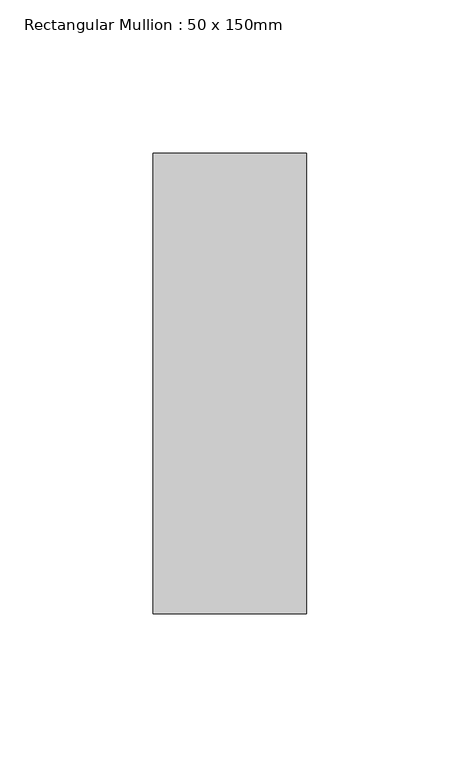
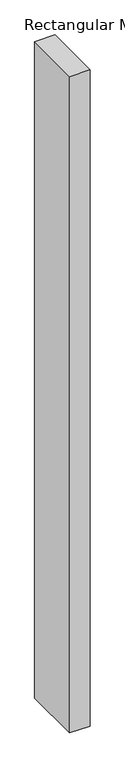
"""IFC4 building model written with IfcOpenShell, lengths in millimetres: member geometry, Rectangular Mullion : 50 x 150mm."""

import ifcopenshell
import ifcopenshell.guid

model = None  # the IFC model being written
_history = None  # IfcOwnerHistory: only IFC2X3 demands one
_inside = {}  # id of a spatial element -> (the spatial element, [elements in it])
_under = {}  # id of a project, library or spatial element -> (it, [spatial elements below it])
_declared = {}  # id of a project -> (the project, [libraries it declares])
_typed = {}  # id of a type object -> (the type object, [elements of that type])
_made_of = {}  # id of a material, layer set ... -> (it, [elements and type objects made of it])


def new_model(schema):
    """Start an empty IFC model of exactly this schema.

    Asked for "IFC4X3", IfcOpenShell would pick the latest addendum, in which some entities
    have other attributes; the version numbers below select the first issue.
    IFC2X3 requires an IfcOwnerHistory on every rooted entity: one is made here for all.
    """
    global model, _history
    if schema == "IFC4X3":
        model = ifcopenshell.file(schema_version=(4, 3, 0, 0))
    else:
        model = ifcopenshell.file(schema=schema)
    _inside.clear()
    _under.clear()
    _declared.clear()
    _typed.clear()
    _made_of.clear()
    _history = None
    if model.schema == "IFC2X3":
        org = make("IfcOrganization", Name="unknown")
        user = make(
            "IfcPersonAndOrganization",
            ThePerson=make("IfcPerson", FamilyName="unknown"),
            TheOrganization=org,
        )
        app = make(
            "IfcApplication",
            ApplicationDeveloper=org,
            Version="unknown",
            ApplicationFullName="unknown",
            ApplicationIdentifier="unknown",
        )
        _history = make(
            "IfcOwnerHistory",
            OwningUser=user,
            OwningApplication=app,
            ChangeAction="ADDED",
            CreationDate=0,
        )
    return model


def make(cls, **values):
    """One entity of the class cls with the attributes given. An attribute that is None is left unset."""
    return model.create_entity(
        cls, **{name: value for name, value in values.items() if value is not None}
    )


def rooted(cls, **values):
    """An entity with a GlobalId (a new one), such as an element, a storey or a relation."""
    return make(cls, GlobalId=ifcopenshell.guid.new(), OwnerHistory=_history, **values)


def si_unit(unit_type, name, prefix=None):
    """IfcSIUnit, for example si_unit("LENGTHUNIT", "METRE", prefix="MILLI")."""
    return make("IfcSIUnit", UnitType=unit_type, Prefix=prefix, Name=name)


def assignment(units):
    """IfcUnitAssignment: the units of a project."""
    return None if units is None else make("IfcUnitAssignment", Units=units)


def point(xyz):
    """IfcCartesianPoint."""
    return None if xyz is None else make("IfcCartesianPoint", Coordinates=xyz)


def direction(xyz):
    """IfcDirection."""
    return None if xyz is None else make("IfcDirection", DirectionRatios=xyz)


def frame(location, z_axis=None, x_axis=None):
    """IfcAxis2Placement3D, a coordinate frame: its origin and axes. An axis left out is left unset."""
    return make(
        "IfcAxis2Placement3D",
        Location=point(location),
        Axis=direction(z_axis),
        RefDirection=direction(x_axis),
    )


def origin():
    """The frame at (0, 0, 0) with its axes left unset."""
    return frame((0.0, 0.0, 0.0))


def place(relative_to, where):
    """IfcLocalPlacement: puts the frame where relative to a parent placement (None: the world)."""
    return make(
        "IfcLocalPlacement", PlacementRelTo=relative_to, RelativePlacement=where
    )


def context(
    kind, dimensions, precision=None, world=None, true_north=None, identifier=None
):
    """IfcGeometricRepresentationContext, for example the 3D "Model" context."""
    return make(
        "IfcGeometricRepresentationContext",
        ContextIdentifier=identifier,
        ContextType=kind,
        CoordinateSpaceDimension=dimensions,
        Precision=precision,
        WorldCoordinateSystem=world,
        TrueNorth=true_north,
    )


def project(units=None, contexts=None):
    """IfcProject with its units and contexts."""
    return rooted(
        "IfcProject",
        Name="project",
        RepresentationContexts=contexts,
        UnitsInContext=assignment(units),
    )


def spatial(cls, under=None, at=None, **own):
    """A site, building, storey or space (cls), placed at a placement, below another one or the project."""
    s = rooted(cls, ObjectPlacement=at, **own)
    if under is not None:
        _under.setdefault(under.id(), (under, []))[1].append(s)
    return s


def polyline(points):
    """IfcPolyline through the points."""
    return make("IfcPolyline", Points=[point(p) for p in points])


def outline(outer, holes=None, kind="AREA"):
    """IfcArbitraryClosedProfileDef: a profile drawn as a closed curve; with holes, ...WithVoids."""
    if holes is None:
        return make("IfcArbitraryClosedProfileDef", ProfileType=kind, OuterCurve=outer)
    return make(
        "IfcArbitraryProfileDefWithVoids",
        ProfileType=kind,
        OuterCurve=outer,
        InnerCurves=holes,
    )


def extrude(swept, where, along, depth):
    """IfcExtrudedAreaSolid: the profile swept, set in the frame where, extruded along a direction by depth."""
    return make(
        "IfcExtrudedAreaSolid",
        SweptArea=swept,
        Position=where,
        ExtrudedDirection=direction(along),
        Depth=depth,
    )


def shape(context_of_items, identifier, shape_type, items):
    """IfcShapeRepresentation: the items that make up one representation, for example the "Body"."""
    return make(
        "IfcShapeRepresentation",
        ContextOfItems=context_of_items,
        RepresentationIdentifier=identifier,
        RepresentationType=shape_type,
        Items=items,
    )


def source(mapping_origin, context_of_items, identifier, shape_type, items):
    """IfcRepresentationMap: a shape defined once, which mapped items show again and again."""
    return make(
        "IfcRepresentationMap",
        MappingOrigin=mapping_origin,
        MappedRepresentation=shape(context_of_items, identifier, shape_type, items),
    )


def transform(
    local_origin,
    x_axis=None,
    y_axis=None,
    z_axis=None,
    scale=None,
    scale2=None,
    scale3=None,
    uniform=True,
):
    """IfcCartesianTransformationOperator3D, or its non-uniform kind. x_axis, y_axis, z_axis: its Axis1, 2, 3."""
    if uniform:
        return make(
            "IfcCartesianTransformationOperator3D",
            Axis1=direction(x_axis),
            Axis2=direction(y_axis),
            LocalOrigin=point(local_origin),
            Scale=scale,
            Axis3=direction(z_axis),
        )
    return make(
        "IfcCartesianTransformationOperator3DnonUniform",
        Axis1=direction(x_axis),
        Axis2=direction(y_axis),
        LocalOrigin=point(local_origin),
        Scale=scale,
        Axis3=direction(z_axis),
        Scale2=scale2,
        Scale3=scale3,
    )


def mapped(mapping_source, mapping_target):
    """IfcMappedItem: shows the shape of a source again, moved by a transform."""
    return make(
        "IfcMappedItem", MappingSource=mapping_source, MappingTarget=mapping_target
    )


def made_of(thing, what):
    """Note that an element or type object is made of a material, layer set ...; save() writes the relation."""
    if what is not None:
        _made_of.setdefault(what.id(), (what, []))[1].append(thing)
    return thing


def element(
    cls,
    number,
    at=None,
    inside=None,
    cuts=None,
    type_object=None,
    material=None,
    context=None,
    identifier="Body",
    shape_type=None,
    held_by="IfcProductDefinitionShape",
    body=None,
    shapes=None,
    **own,
):
    """One element of the class cls, such as IfcWall. Its Tag is "e" and its number.

    at: its placement. inside: the storey or other place that contains it. cuts: it is an
    opening in that element (IfcRelVoidsElement). A single representation is given by context,
    identifier, shape_type and body (its items); several are given by shapes. held_by: the class
    of the entity that holds the representations. save() writes the other relations.
    """
    e = rooted(cls, Tag="e%d" % number, ObjectPlacement=at, **own)
    if body is not None:
        shapes = [shape(context, identifier, shape_type, body)]
    if shapes is not None:
        e.Representation = make(held_by, Representations=shapes)
    if inside is not None:
        _inside.setdefault(inside.id(), (inside, []))[1].append(e)
    if cuts is not None:
        rooted(
            "IfcRelVoidsElement", RelatingBuildingElement=cuts, RelatedOpeningElement=e
        )
    if type_object is not None:
        _typed.setdefault(type_object.id(), (type_object, []))[1].append(e)
    return made_of(e, material)


def aggregate(whole, parts):
    """IfcRelAggregates: a whole, such as a stair, and the parts it consists of."""
    return rooted("IfcRelAggregates", RelatingObject=whole, RelatedObjects=parts)


def save(model, path):
    """Write the relations noted so far, then the file.

    IfcRelAggregates (storeys below a building ...), IfcRelContainedInSpatialStructure (elements
    in a storey), IfcRelDefinesByType, IfcRelAssociatesMaterial and IfcRelDeclares: one each for
    every whole, place, type object, material and project.
    """
    for whole, parts in _under.values():
        aggregate(whole, parts)
    for where, things in _inside.values():
        rooted(
            "IfcRelContainedInSpatialStructure",
            RelatedElements=things,
            RelatingStructure=where,
        )
    for kind, things in _typed.values():
        rooted("IfcRelDefinesByType", RelatedObjects=things, RelatingType=kind)
    for what, things in _made_of.values():
        rooted("IfcRelAssociatesMaterial", RelatedObjects=things, RelatingMaterial=what)
    for by, libraries in _declared.values():
        rooted("IfcRelDeclares", RelatingContext=by, RelatedDefinitions=libraries)
    model.write(path)


def rectangular_mullion_50_x_150mm_63b06ac0(model_context):
    return source(origin(), model_context, "Body", "SweptSolid", [
        extrude(outline(polyline([(0.0, 0.0), (-0.3303138, -50.0), (-1716.11877, -50.0), (-1716.518442, 0.0), (0.0, 0.0)])), frame((0.0, -75.0, 0.0), z_axis=(0.0, 1.0, 0.0), x_axis=(0.0, 0.0, 1.0)), (0.0, 0.0, 1.0), 150.0),
    ])


if __name__ == "__main__":
    model = new_model("IFC4")
    model_context = context("Model", 3, world=origin())
    ifc_project = project(units=[si_unit("LENGTHUNIT", "METRE", prefix="MILLI")], contexts=[model_context])
    site = spatial("IfcSite", under=ifc_project)
    building = spatial("IfcBuilding", under=site)
    placement = place(None, origin())
    rectangular_mullion_50_x_150mm_shape = rectangular_mullion_50_x_150mm_63b06ac0(model_context)
    element("IfcMember", 1, ObjectType="Rectangular Mullion : 50 x 150mm", at=placement, inside=building, context=model_context, shape_type="MappedRepresentation", body=[
        mapped(rectangular_mullion_50_x_150mm_shape, transform((0.0, 0.0, 0.0), x_axis=(1.0, 0.0, 0.0), y_axis=(0.0, 1.0, 0.0), z_axis=(0.0, 0.0, 1.0))),
    ])
    save(model, "model.ifc")
